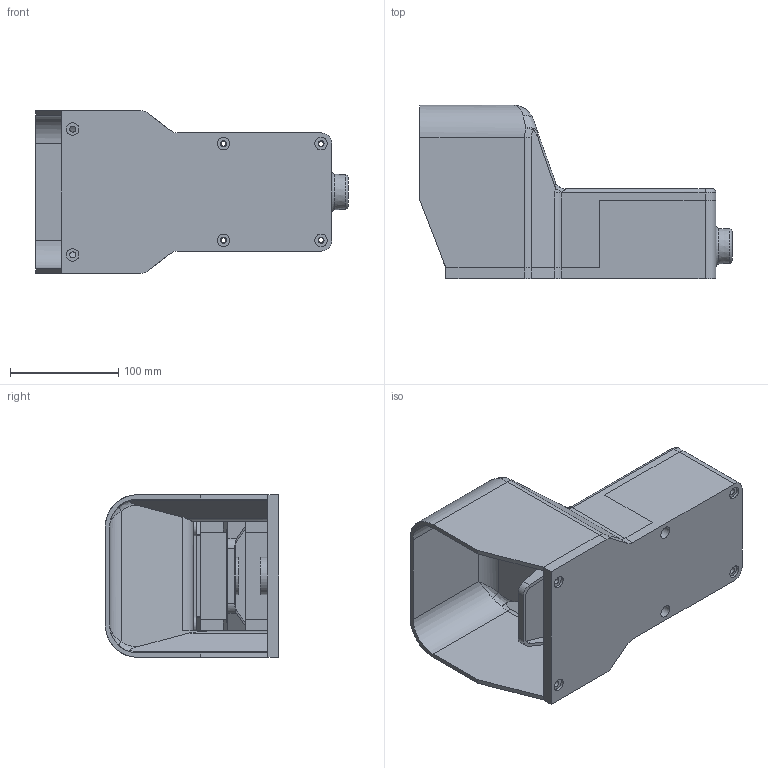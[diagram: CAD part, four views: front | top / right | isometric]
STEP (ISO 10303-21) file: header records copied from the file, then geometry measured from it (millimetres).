
FILE_DESCRIPTION (( 'STEP AP214' ), '1' );
FILE_NAME ('PCK.STEP', '2024-03-27T22:49:02', ( '' ), ( '' ), 'SwSTEP 2.0', 'SolidWorks 2020', '' );
FILE_SCHEMA (( 'AUTOMOTIVE_DESIGN' ));
Length unit declared in the file: millimetre
Products named in the file (4): PCK_Base; PCK_Pedale; PCK; PCK_Coperchio
Assembly tree (3 placements, depth 2):
  PCK
    PCK_Base
    PCK_Pedale
    PCK_Coperchio
Bounding box: 288 x 160 x 150 mm (x, y, z)
Volume: 861217.9 mm3; surface area: 337386.3 mm2
Topology: 3 solids, 3 shells, 457 faces, 1210 edges, 795 vertices
Faces by surface type: plane 242, cylinder 184, bspline 25, torus 4, cone 2
Full cylindrical faces by diameter (mm): 4.5 x4, 5.5 x6, 7 x4, 9 x2, 10 x2, 11.5 x6, 13.5 x1, 30.5 x2, 34.5 x2
Entity records: 15094 total; most frequent: CARTESIAN_POINT 3683, DIRECTION 2338, ORIENTED_EDGE 2316, EDGE_CURVE 1158, AXIS2_PLACEMENT_3D 805, VERTEX_POINT 782, VECTOR 728, LINE 728
